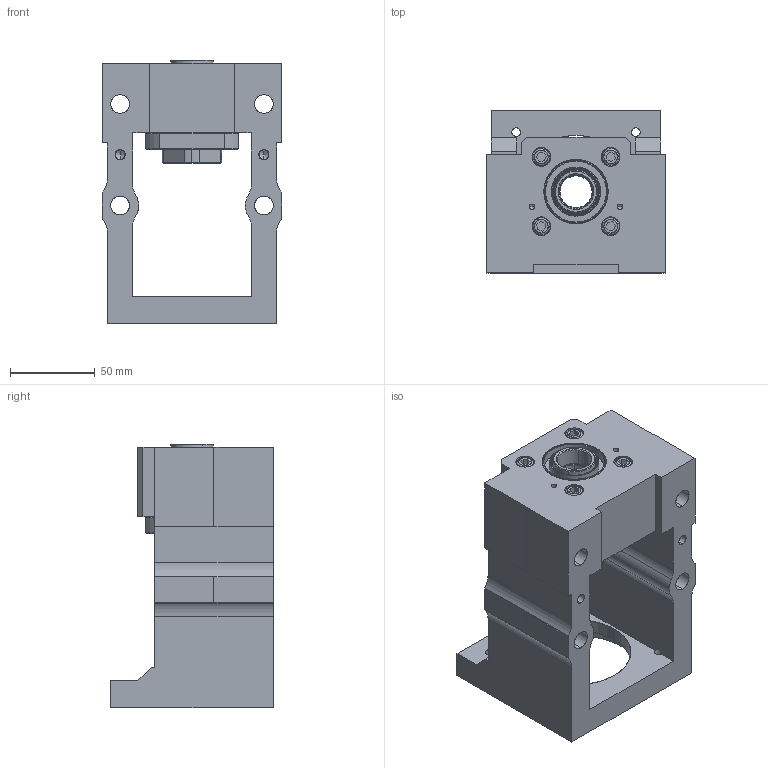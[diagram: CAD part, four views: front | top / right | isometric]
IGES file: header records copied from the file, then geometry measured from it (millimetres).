
Start section: SolidWorks IGES file using analytic representation for surfaces
Bounding box: 106 x 96 x 156 mm (x, y, z)
Surface area: 152652.4 mm2 (no closed solid volume)
Topology: 0 solids, 0 shells, 621 faces, 11490 edges, 11412 vertices
Faces by surface type: revolution 350, bspline 271
